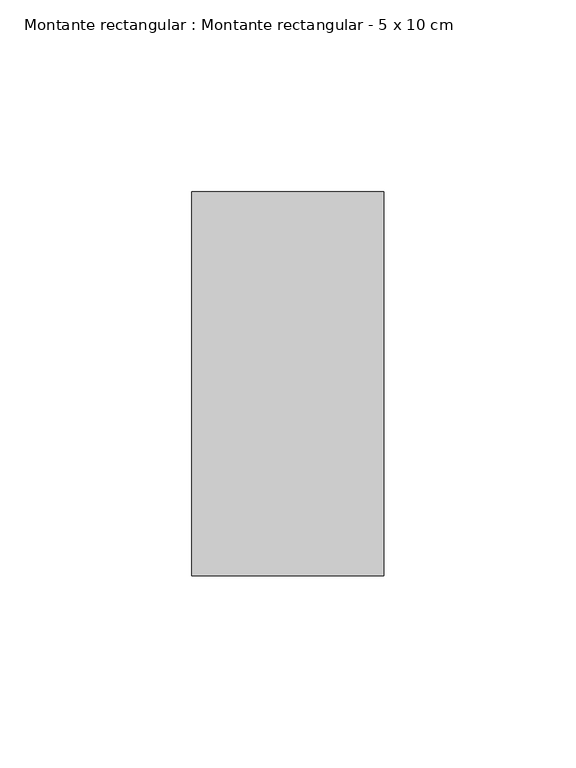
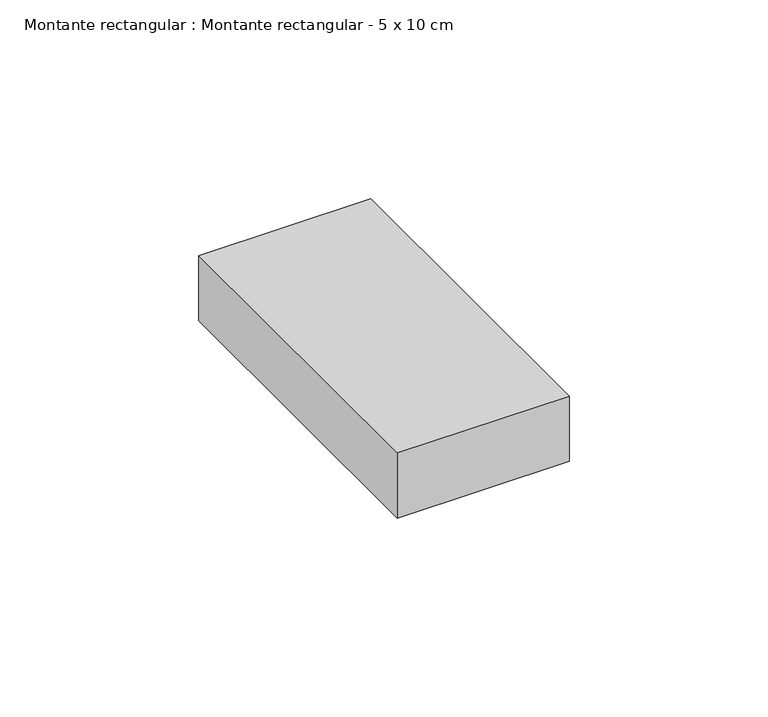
"""IFC4 building model written with IfcOpenShell, lengths in millimetres: member geometry, Montante rectangular : Montante rectangular - 5 x 10 cm."""

from ifc_helpers import new_model, si_unit, frame, origin, place, context, project, spatial, polyline, outline, extrude, source, transform, mapped, element, save


def montante_rectangular_montante_rectangular_5_x_10_cm_786a1f3e(model_context):
    return source(origin(), model_context, "Body", "SweptSolid", [
        extrude(outline(polyline([(0.0, 50.0), (0.0, -50.0), (-50.0, -50.0), (-50.0, 50.0), (0.0, 50.0)])), frame((0.0, 0.0, -20.0), z_axis=(0.0, 0.0, 1.0), x_axis=(1.0, 0.0, 0.0)), (0.0, 0.0, 1.0), 20.0),
    ])


if __name__ == "__main__":
    model = new_model("IFC4")
    model_context = context("Model", 3, world=origin())
    ifc_project = project(units=[si_unit("LENGTHUNIT", "METRE", prefix="MILLI")], contexts=[model_context])
    site = spatial("IfcSite", under=ifc_project)
    building = spatial("IfcBuilding", under=site)
    placement = place(None, origin())
    montante_rectangular_montante_rectangular_5_x_10_cm_shape = montante_rectangular_montante_rectangular_5_x_10_cm_786a1f3e(model_context)
    element("IfcMember", 1, ObjectType="Montante rectangular : Montante rectangular - 5 x 10 cm", at=placement, inside=building, context=model_context, shape_type="MappedRepresentation", body=[
        mapped(montante_rectangular_montante_rectangular_5_x_10_cm_shape, transform((0.0, 0.0, 0.0), x_axis=(1.0, 0.0, 0.0), y_axis=(0.0, 1.0, 0.0), z_axis=(0.0, 0.0, 1.0))),
    ])
    save(model, "model.ifc")
